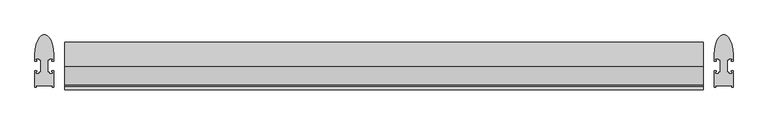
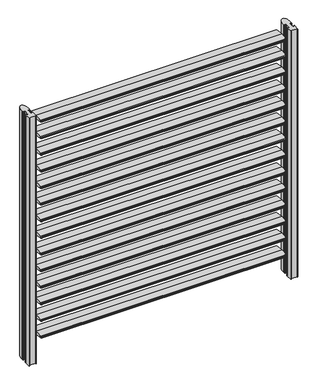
"""IFC4 building model written with IfcOpenShell, lengths in millimetres: proxy geometry, FSB_horizotal : FSB_horizotal_140."""

from ifc_helpers import new_model, si_unit, point, frame, frame_2d, origin, place, context, project, spatial, polyline, circle_curve, ellipse_curve, trimmed, segment, composite_curve, outline, extrude, source, transform, mapped, element, save
from ifc_brep_helpers import plane_surface, cylinder_surface, extruded_surface, advanced_brep


def generic_models_d16fba78(model_context):
    return source(origin(), model_context, "Body", "SolidModel", [
        extrude(outline(composite_curve([segment(polyline([(70.0601421, 201.7825961), (69.2391022, 199.417738), (60.340482, 202.0780318), (58.9296323, 198.0143321)]), True, "CONTINUOUS"), segment(trimmed(circle_curve(frame_2d((54.2066797, 199.6540636)), 4.9995), [point((58.9296323, 198.0143321))], [point((55.4159306, 194.8030109))], False, "CARTESIAN"), True, "CONTINUOUS"), segment(trimmed(circle_curve(frame_2d((-0.0013672, 417.1160411)), 229.1160411), [point((55.4159306, 194.8030109))], [point((0.0, 188.0))], False, "CARTESIAN"), True, "CONTINUOUS"), segment(trimmed(circle_curve(frame_2d((0.002269, 417.1160411)), 229.1160411), [point((0.0, 188.0))], [point((-70.0592401, 198.974928))], False, "CARTESIAN"), True, "CONTINUOUS"), segment(polyline([(-70.0592401, 198.974928), (-69.2382002, 201.3397861), (-60.33958, 198.6794923), (-58.9287302, 202.7431919)]), True, "CONTINUOUS"), segment(trimmed(circle_curve(frame_2d((-54.2057777, 201.1034604)), 4.9995), [point((-58.9287302, 202.7431919))], [point((-55.4150286, 205.9545131))], False, "CARTESIAN"), True, "CONTINUOUS"), segment(trimmed(circle_curve(frame_2d((0.0022692, -16.3585171)), 229.1160411), [point((-55.4150286, 205.9545131))], [point((0.0009021, 212.757524))], False, "CARTESIAN"), True, "CONTINUOUS"), segment(trimmed(circle_curve(frame_2d((-0.001367, -16.3585171)), 229.1160411), [point((0.0009021, 212.757524))], [point((70.0601421, 201.7825961))], False, "CARTESIAN"), True, "CONTINUOUS")], self_intersect=False)), frame((-939.5, 0.0, 0.0), z_axis=(1.0, 0.0, 0.0), x_axis=(0.0, 1.0, 0.0)), (0.0, 0.0, 1.0), 1879.0),
        extrude(outline(composite_curve([segment(polyline([(70.0601421, 335.7825961), (69.2391022, 333.417738), (60.340482, 336.0780318), (58.9296323, 332.0143321)]), True, "CONTINUOUS"), segment(trimmed(circle_curve(frame_2d((54.2066797, 333.6540636)), 4.9995), [point((58.9296323, 332.0143321))], [point((55.4159306, 328.8030109))], False, "CARTESIAN"), True, "CONTINUOUS"), segment(trimmed(circle_curve(frame_2d((-0.0013672, 551.1160411)), 229.1160411), [point((55.4159306, 328.8030109))], [point((0.0, 322.0))], False, "CARTESIAN"), True, "CONTINUOUS"), segment(trimmed(circle_curve(frame_2d((0.002269, 551.1160411)), 229.1160411), [point((0.0, 322.0))], [point((-70.0592401, 332.974928))], False, "CARTESIAN"), True, "CONTINUOUS"), segment(polyline([(-70.0592401, 332.974928), (-69.2382002, 335.3397861), (-60.33958, 332.6794923), (-58.9287302, 336.7431919)]), True, "CONTINUOUS"), segment(trimmed(circle_curve(frame_2d((-54.2057777, 335.1034604)), 4.9995), [point((-58.9287302, 336.7431919))], [point((-55.4150286, 339.9545131))], False, "CARTESIAN"), True, "CONTINUOUS"), segment(trimmed(circle_curve(frame_2d((0.0022692, 117.6414829)), 229.1160411), [point((-55.4150286, 339.9545131))], [point((0.0009021, 346.757524))], False, "CARTESIAN"), True, "CONTINUOUS"), segment(trimmed(circle_curve(frame_2d((-0.001367, 117.6414829)), 229.1160411), [point((0.0009021, 346.757524))], [point((70.0601421, 335.7825961))], False, "CARTESIAN"), True, "CONTINUOUS")], self_intersect=False)), frame((-939.5, 0.0, 0.0), z_axis=(1.0, 0.0, 0.0), x_axis=(0.0, 1.0, 0.0)), (0.0, 0.0, 1.0), 1879.0),
        extrude(outline(composite_curve([segment(polyline([(70.0601421, 469.7825961), (69.2391022, 467.417738), (60.340482, 470.0780318), (58.9296323, 466.0143321)]), True, "CONTINUOUS"), segment(trimmed(circle_curve(frame_2d((54.2066797, 467.6540636)), 4.9995), [point((58.9296323, 466.0143321))], [point((55.4159306, 462.8030109))], False, "CARTESIAN"), True, "CONTINUOUS"), segment(trimmed(circle_curve(frame_2d((-0.0013672, 685.1160411)), 229.1160411), [point((55.4159306, 462.8030109))], [point((0.0, 456.0))], False, "CARTESIAN"), True, "CONTINUOUS"), segment(trimmed(circle_curve(frame_2d((0.002269, 685.1160411)), 229.1160411), [point((0.0, 456.0))], [point((-70.0592401, 466.974928))], False, "CARTESIAN"), True, "CONTINUOUS"), segment(polyline([(-70.0592401, 466.974928), (-69.2382002, 469.3397861), (-60.33958, 466.6794923), (-58.9287302, 470.7431919)]), True, "CONTINUOUS"), segment(trimmed(circle_curve(frame_2d((-54.2057777, 469.1034604)), 4.9995), [point((-58.9287302, 470.7431919))], [point((-55.4150286, 473.9545131))], False, "CARTESIAN"), True, "CONTINUOUS"), segment(trimmed(circle_curve(frame_2d((0.0022692, 251.6414829)), 229.1160411), [point((-55.4150286, 473.9545131))], [point((0.0009021, 480.757524))], False, "CARTESIAN"), True, "CONTINUOUS"), segment(trimmed(circle_curve(frame_2d((-0.001367, 251.6414829)), 229.1160411), [point((0.0009021, 480.757524))], [point((70.0601421, 469.7825961))], False, "CARTESIAN"), True, "CONTINUOUS")], self_intersect=False)), frame((-939.5, 0.0, 0.0), z_axis=(1.0, 0.0, 0.0), x_axis=(0.0, 1.0, 0.0)), (0.0, 0.0, 1.0), 1879.0),
        extrude(outline(composite_curve([segment(polyline([(70.0601421, 603.7825961), (69.2391022, 601.417738), (60.340482, 604.0780318), (58.9296323, 600.0143321)]), True, "CONTINUOUS"), segment(trimmed(circle_curve(frame_2d((54.2066797, 601.6540636)), 4.9995), [point((58.9296323, 600.0143321))], [point((55.4159306, 596.8030109))], False, "CARTESIAN"), True, "CONTINUOUS"), segment(trimmed(circle_curve(frame_2d((-0.0013672, 819.1160411)), 229.1160411), [point((55.4159306, 596.8030109))], [point((0.0, 590.0))], False, "CARTESIAN"), True, "CONTINUOUS"), segment(trimmed(circle_curve(frame_2d((0.002269, 819.1160411)), 229.1160411), [point((0.0, 590.0))], [point((-70.0592401, 600.974928))], False, "CARTESIAN"), True, "CONTINUOUS"), segment(polyline([(-70.0592401, 600.974928), (-69.2382002, 603.3397861), (-60.33958, 600.6794923), (-58.9287302, 604.7431919)]), True, "CONTINUOUS"), segment(trimmed(circle_curve(frame_2d((-54.2057777, 603.1034604)), 4.9995), [point((-58.9287302, 604.7431919))], [point((-55.4150286, 607.9545131))], False, "CARTESIAN"), True, "CONTINUOUS"), segment(trimmed(circle_curve(frame_2d((0.0022692, 385.6414829)), 229.1160411), [point((-55.4150286, 607.9545131))], [point((0.0009021, 614.757524))], False, "CARTESIAN"), True, "CONTINUOUS"), segment(trimmed(circle_curve(frame_2d((-0.001367, 385.6414829)), 229.1160411), [point((0.0009021, 614.757524))], [point((70.0601421, 603.7825961))], False, "CARTESIAN"), True, "CONTINUOUS")], self_intersect=False)), frame((-939.5, 0.0, 0.0), z_axis=(1.0, 0.0, 0.0), x_axis=(0.0, 1.0, 0.0)), (0.0, 0.0, 1.0), 1879.0),
        extrude(outline(composite_curve([segment(polyline([(70.0601421, 737.7825961), (69.2391022, 735.417738), (60.340482, 738.0780318), (58.9296323, 734.0143321)]), True, "CONTINUOUS"), segment(trimmed(circle_curve(frame_2d((54.2066797, 735.6540636)), 4.9995), [point((58.9296323, 734.0143321))], [point((55.4159306, 730.8030109))], False, "CARTESIAN"), True, "CONTINUOUS"), segment(trimmed(circle_curve(frame_2d((-0.0013672, 953.1160411)), 229.1160411), [point((55.4159306, 730.8030109))], [point((0.0, 724.0))], False, "CARTESIAN"), True, "CONTINUOUS"), segment(trimmed(circle_curve(frame_2d((0.002269, 953.1160411)), 229.1160411), [point((0.0, 724.0))], [point((-70.0592401, 734.974928))], False, "CARTESIAN"), True, "CONTINUOUS"), segment(polyline([(-70.0592401, 734.974928), (-69.2382002, 737.3397861), (-60.33958, 734.6794923), (-58.9287302, 738.7431919)]), True, "CONTINUOUS"), segment(trimmed(circle_curve(frame_2d((-54.2057777, 737.1034604)), 4.9995), [point((-58.9287302, 738.7431919))], [point((-55.4150286, 741.9545131))], False, "CARTESIAN"), True, "CONTINUOUS"), segment(trimmed(circle_curve(frame_2d((0.0022692, 519.6414829)), 229.1160411), [point((-55.4150286, 741.9545131))], [point((0.0009021, 748.757524))], False, "CARTESIAN"), True, "CONTINUOUS"), segment(trimmed(circle_curve(frame_2d((-0.001367, 519.6414829)), 229.1160411), [point((0.0009021, 748.757524))], [point((70.0601421, 737.7825961))], False, "CARTESIAN"), True, "CONTINUOUS")], self_intersect=False)), frame((-939.5, 0.0, 0.0), z_axis=(1.0, 0.0, 0.0), x_axis=(0.0, 1.0, 0.0)), (0.0, 0.0, 1.0), 1879.0),
        extrude(outline(composite_curve([segment(polyline([(70.0601421, 871.7825961), (69.2391022, 869.417738), (60.340482, 872.0780318), (58.9296323, 868.0143321)]), True, "CONTINUOUS"), segment(trimmed(circle_curve(frame_2d((54.2066797, 869.6540636)), 4.9995), [point((58.9296323, 868.0143321))], [point((55.4159306, 864.8030109))], False, "CARTESIAN"), True, "CONTINUOUS"), segment(trimmed(circle_curve(frame_2d((-0.0013672, 1087.1160411)), 229.1160411), [point((55.4159306, 864.8030109))], [point((0.0, 858.0))], False, "CARTESIAN"), True, "CONTINUOUS"), segment(trimmed(circle_curve(frame_2d((0.002269, 1087.1160411)), 229.1160411), [point((0.0, 858.0))], [point((-70.0592401, 868.974928))], False, "CARTESIAN"), True, "CONTINUOUS"), segment(polyline([(-70.0592401, 868.974928), (-69.2382002, 871.3397861), (-60.33958, 868.6794923), (-58.9287302, 872.7431919)]), True, "CONTINUOUS"), segment(trimmed(circle_curve(frame_2d((-54.2057777, 871.1034604)), 4.9995), [point((-58.9287302, 872.7431919))], [point((-55.4150286, 875.9545131))], False, "CARTESIAN"), True, "CONTINUOUS"), segment(trimmed(circle_curve(frame_2d((0.0022692, 653.6414829)), 229.1160411), [point((-55.4150286, 875.9545131))], [point((0.0009021, 882.757524))], False, "CARTESIAN"), True, "CONTINUOUS"), segment(trimmed(circle_curve(frame_2d((-0.001367, 653.6414829)), 229.1160411), [point((0.0009021, 882.757524))], [point((70.0601421, 871.7825961))], False, "CARTESIAN"), True, "CONTINUOUS")], self_intersect=False)), frame((-939.5, 0.0, 0.0), z_axis=(1.0, 0.0, 0.0), x_axis=(0.0, 1.0, 0.0)), (0.0, 0.0, 1.0), 1879.0),
        extrude(outline(composite_curve([segment(polyline([(70.0601421, 1005.7825961), (69.2391022, 1003.417738), (60.340482, 1006.0780318), (58.9296323, 1002.0143321)]), True, "CONTINUOUS"), segment(trimmed(circle_curve(frame_2d((54.2066797, 1003.6540636)), 4.9995), [point((58.9296323, 1002.0143321))], [point((55.4159306, 998.8030109))], False, "CARTESIAN"), True, "CONTINUOUS"), segment(trimmed(circle_curve(frame_2d((-0.0013672, 1221.1160411)), 229.1160411), [point((55.4159306, 998.8030109))], [point((0.0, 992.0))], False, "CARTESIAN"), True, "CONTINUOUS"), segment(trimmed(circle_curve(frame_2d((0.002269, 1221.1160411)), 229.1160411), [point((0.0, 992.0))], [point((-70.0592401, 1002.974928))], False, "CARTESIAN"), True, "CONTINUOUS"), segment(polyline([(-70.0592401, 1002.974928), (-69.2382002, 1005.3397861), (-60.33958, 1002.6794923), (-58.9287302, 1006.7431919)]), True, "CONTINUOUS"), segment(trimmed(circle_curve(frame_2d((-54.2057777, 1005.1034604)), 4.9995), [point((-58.9287302, 1006.7431919))], [point((-55.4150286, 1009.9545131))], False, "CARTESIAN"), True, "CONTINUOUS"), segment(trimmed(circle_curve(frame_2d((0.0022692, 787.6414829)), 229.1160411), [point((-55.4150286, 1009.9545131))], [point((0.0009021, 1016.757524))], False, "CARTESIAN"), True, "CONTINUOUS"), segment(trimmed(circle_curve(frame_2d((-0.001367, 787.6414829)), 229.1160411), [point((0.0009021, 1016.757524))], [point((70.0601421, 1005.7825961))], False, "CARTESIAN"), True, "CONTINUOUS")], self_intersect=False)), frame((-939.5, 0.0, 0.0), z_axis=(1.0, 0.0, 0.0), x_axis=(0.0, 1.0, 0.0)), (0.0, 0.0, 1.0), 1879.0),
        extrude(outline(composite_curve([segment(polyline([(70.0601421, 1139.7825961), (69.2391022, 1137.417738), (60.340482, 1140.0780318), (58.9296323, 1136.0143321)]), True, "CONTINUOUS"), segment(trimmed(circle_curve(frame_2d((54.2066797, 1137.6540636)), 4.9995), [point((58.9296323, 1136.0143321))], [point((55.4159306, 1132.8030109))], False, "CARTESIAN"), True, "CONTINUOUS"), segment(trimmed(circle_curve(frame_2d((-0.0013672, 1355.1160411)), 229.1160411), [point((55.4159306, 1132.8030109))], [point((0.0, 1126.0))], False, "CARTESIAN"), True, "CONTINUOUS"), segment(trimmed(circle_curve(frame_2d((0.002269, 1355.1160411)), 229.1160411), [point((0.0, 1126.0))], [point((-70.0592401, 1136.974928))], False, "CARTESIAN"), True, "CONTINUOUS"), segment(polyline([(-70.0592401, 1136.974928), (-69.2382002, 1139.3397861), (-60.33958, 1136.6794923), (-58.9287302, 1140.7431919)]), True, "CONTINUOUS"), segment(trimmed(circle_curve(frame_2d((-54.2057777, 1139.1034604)), 4.9995), [point((-58.9287302, 1140.7431919))], [point((-55.4150286, 1143.9545131))], False, "CARTESIAN"), True, "CONTINUOUS"), segment(trimmed(circle_curve(frame_2d((0.0022692, 921.6414829)), 229.1160411), [point((-55.4150286, 1143.9545131))], [point((0.0009021, 1150.757524))], False, "CARTESIAN"), True, "CONTINUOUS"), segment(trimmed(circle_curve(frame_2d((-0.001367, 921.6414829)), 229.1160411), [point((0.0009021, 1150.757524))], [point((70.0601421, 1139.7825961))], False, "CARTESIAN"), True, "CONTINUOUS")], self_intersect=False)), frame((-939.5, 0.0, 0.0), z_axis=(1.0, 0.0, 0.0), x_axis=(0.0, 1.0, 0.0)), (0.0, 0.0, 1.0), 1879.0),
        extrude(outline(composite_curve([segment(polyline([(70.0601421, 1273.7825961), (69.2391022, 1271.417738), (60.340482, 1274.0780318), (58.9296323, 1270.0143321)]), True, "CONTINUOUS"), segment(trimmed(circle_curve(frame_2d((54.2066797, 1271.6540636)), 4.9995), [point((58.9296323, 1270.0143321))], [point((55.4159306, 1266.8030109))], False, "CARTESIAN"), True, "CONTINUOUS"), segment(trimmed(circle_curve(frame_2d((-0.0013672, 1489.1160411)), 229.1160411), [point((55.4159306, 1266.8030109))], [point((0.0, 1260.0))], False, "CARTESIAN"), True, "CONTINUOUS"), segment(trimmed(circle_curve(frame_2d((0.002269, 1489.1160411)), 229.1160411), [point((0.0, 1260.0))], [point((-70.0592401, 1270.974928))], False, "CARTESIAN"), True, "CONTINUOUS"), segment(polyline([(-70.0592401, 1270.974928), (-69.2382002, 1273.3397861), (-60.33958, 1270.6794923), (-58.9287302, 1274.7431919)]), True, "CONTINUOUS"), segment(trimmed(circle_curve(frame_2d((-54.2057777, 1273.1034604)), 4.9995), [point((-58.9287302, 1274.7431919))], [point((-55.4150286, 1277.9545131))], False, "CARTESIAN"), True, "CONTINUOUS"), segment(trimmed(circle_curve(frame_2d((0.0022692, 1055.6414829)), 229.1160411), [point((-55.4150286, 1277.9545131))], [point((0.0009021, 1284.757524))], False, "CARTESIAN"), True, "CONTINUOUS"), segment(trimmed(circle_curve(frame_2d((-0.001367, 1055.6414829)), 229.1160411), [point((0.0009021, 1284.757524))], [point((70.0601421, 1273.7825961))], False, "CARTESIAN"), True, "CONTINUOUS")], self_intersect=False)), frame((-939.5, 0.0, 0.0), z_axis=(1.0, 0.0, 0.0), x_axis=(0.0, 1.0, 0.0)), (0.0, 0.0, 1.0), 1879.0),
        extrude(outline(composite_curve([segment(polyline([(70.0601421, 1407.7825961), (69.2391022, 1405.417738), (60.340482, 1408.0780318), (58.9296323, 1404.0143321)]), True, "CONTINUOUS"), segment(trimmed(circle_curve(frame_2d((54.2066797, 1405.6540636)), 4.9995), [point((58.9296323, 1404.0143321))], [point((55.4159306, 1400.8030109))], False, "CARTESIAN"), True, "CONTINUOUS"), segment(trimmed(circle_curve(frame_2d((-0.0013672, 1623.1160411)), 229.1160411), [point((55.4159306, 1400.8030109))], [point((0.0, 1394.0))], False, "CARTESIAN"), True, "CONTINUOUS"), segment(trimmed(circle_curve(frame_2d((0.002269, 1623.1160411)), 229.1160411), [point((0.0, 1394.0))], [point((-70.0592401, 1404.974928))], False, "CARTESIAN"), True, "CONTINUOUS"), segment(polyline([(-70.0592401, 1404.974928), (-69.2382002, 1407.3397861), (-60.33958, 1404.6794923), (-58.9287302, 1408.7431919)]), True, "CONTINUOUS"), segment(trimmed(circle_curve(frame_2d((-54.2057777, 1407.1034604)), 4.9995), [point((-58.9287302, 1408.7431919))], [point((-55.4150286, 1411.9545131))], False, "CARTESIAN"), True, "CONTINUOUS"), segment(trimmed(circle_curve(frame_2d((0.0022692, 1189.6414829)), 229.1160411), [point((-55.4150286, 1411.9545131))], [point((0.0009021, 1418.757524))], False, "CARTESIAN"), True, "CONTINUOUS"), segment(trimmed(circle_curve(frame_2d((-0.001367, 1189.6414829)), 229.1160411), [point((0.0009021, 1418.757524))], [point((70.0601421, 1407.7825961))], False, "CARTESIAN"), True, "CONTINUOUS")], self_intersect=False)), frame((-939.5, 0.0, 0.0), z_axis=(1.0, 0.0, 0.0), x_axis=(0.0, 1.0, 0.0)), (0.0, 0.0, 1.0), 1879.0),
        extrude(outline(composite_curve([segment(polyline([(70.0601421, 1541.7825961), (69.2391022, 1539.417738), (60.340482, 1542.0780318), (58.9296323, 1538.0143321)]), True, "CONTINUOUS"), segment(trimmed(circle_curve(frame_2d((54.2066797, 1539.6540636)), 4.9995), [point((58.9296323, 1538.0143321))], [point((55.4159306, 1534.8030109))], False, "CARTESIAN"), True, "CONTINUOUS"), segment(trimmed(circle_curve(frame_2d((-0.0013672, 1757.1160411)), 229.1160411), [point((55.4159306, 1534.8030109))], [point((0.0, 1528.0))], False, "CARTESIAN"), True, "CONTINUOUS"), segment(trimmed(circle_curve(frame_2d((0.002269, 1757.1160411)), 229.1160411), [point((0.0, 1528.0))], [point((-70.0592401, 1538.974928))], False, "CARTESIAN"), True, "CONTINUOUS"), segment(polyline([(-70.0592401, 1538.974928), (-69.2382002, 1541.3397861), (-60.33958, 1538.6794923), (-58.9287302, 1542.7431919)]), True, "CONTINUOUS"), segment(trimmed(circle_curve(frame_2d((-54.2057777, 1541.1034604)), 4.9995), [point((-58.9287302, 1542.7431919))], [point((-55.4150286, 1545.9545131))], False, "CARTESIAN"), True, "CONTINUOUS"), segment(trimmed(circle_curve(frame_2d((0.0022692, 1323.6414829)), 229.1160411), [point((-55.4150286, 1545.9545131))], [point((0.0009021, 1552.757524))], False, "CARTESIAN"), True, "CONTINUOUS"), segment(trimmed(circle_curve(frame_2d((-0.001367, 1323.6414829)), 229.1160411), [point((0.0009021, 1552.757524))], [point((70.0601421, 1541.7825961))], False, "CARTESIAN"), True, "CONTINUOUS")], self_intersect=False)), frame((-939.5, 0.0, 0.0), z_axis=(1.0, 0.0, 0.0), x_axis=(0.0, 1.0, 0.0)), (0.0, 0.0, 1.0), 1879.0),
        extrude(outline(composite_curve([segment(polyline([(70.0601421, 1675.7825961), (69.2391022, 1673.417738), (60.340482, 1676.0780318), (58.9296323, 1672.0143321)]), True, "CONTINUOUS"), segment(trimmed(circle_curve(frame_2d((54.2066797, 1673.6540636)), 4.9995), [point((58.9296323, 1672.0143321))], [point((55.4159306, 1668.8030109))], False, "CARTESIAN"), True, "CONTINUOUS"), segment(trimmed(circle_curve(frame_2d((-0.0013672, 1891.1160411)), 229.1160411), [point((55.4159306, 1668.8030109))], [point((0.0, 1662.0))], False, "CARTESIAN"), True, "CONTINUOUS"), segment(trimmed(circle_curve(frame_2d((0.002269, 1891.1160411)), 229.1160411), [point((0.0, 1662.0))], [point((-70.0592401, 1672.974928))], False, "CARTESIAN"), True, "CONTINUOUS"), segment(polyline([(-70.0592401, 1672.974928), (-69.2382002, 1675.3397861), (-60.33958, 1672.6794923), (-58.9287302, 1676.7431919)]), True, "CONTINUOUS"), segment(trimmed(circle_curve(frame_2d((-54.2057777, 1675.1034604)), 4.9995), [point((-58.9287302, 1676.7431919))], [point((-55.4150286, 1679.9545131))], False, "CARTESIAN"), True, "CONTINUOUS"), segment(trimmed(circle_curve(frame_2d((0.0022692, 1457.6414829)), 229.1160411), [point((-55.4150286, 1679.9545131))], [point((0.0009021, 1686.757524))], False, "CARTESIAN"), True, "CONTINUOUS"), segment(trimmed(circle_curve(frame_2d((-0.001367, 1457.6414829)), 229.1160411), [point((0.0009021, 1686.757524))], [point((70.0601421, 1675.7825961))], False, "CARTESIAN"), True, "CONTINUOUS")], self_intersect=False)), frame((-939.5, 0.0, 0.0), z_axis=(1.0, 0.0, 0.0), x_axis=(0.0, 1.0, 0.0)), (0.0, 0.0, 1.0), 1879.0),
        extrude(outline(composite_curve([segment(polyline([(70.0601421, 1809.7825961), (69.2391022, 1807.417738), (60.340482, 1810.0780318), (58.9296323, 1806.0143321)]), True, "CONTINUOUS"), segment(trimmed(circle_curve(frame_2d((54.2066797, 1807.6540636)), 4.9995), [point((58.9296323, 1806.0143321))], [point((55.4159306, 1802.8030109))], False, "CARTESIAN"), True, "CONTINUOUS"), segment(trimmed(circle_curve(frame_2d((-0.0013672, 2025.1160411)), 229.1160411), [point((55.4159306, 1802.8030109))], [point((0.0, 1796.0))], False, "CARTESIAN"), True, "CONTINUOUS"), segment(trimmed(circle_curve(frame_2d((0.002269, 2025.1160411)), 229.1160411), [point((0.0, 1796.0))], [point((-70.0592401, 1806.974928))], False, "CARTESIAN"), True, "CONTINUOUS"), segment(polyline([(-70.0592401, 1806.974928), (-69.2382002, 1809.3397861), (-60.33958, 1806.6794923), (-58.9287302, 1810.7431919)]), True, "CONTINUOUS"), segment(trimmed(circle_curve(frame_2d((-54.2057777, 1809.1034604)), 4.9995), [point((-58.9287302, 1810.7431919))], [point((-55.4150286, 1813.9545131))], False, "CARTESIAN"), True, "CONTINUOUS"), segment(trimmed(circle_curve(frame_2d((0.0022692, 1591.6414829)), 229.1160411), [point((-55.4150286, 1813.9545131))], [point((0.0009021, 1820.757524))], False, "CARTESIAN"), True, "CONTINUOUS"), segment(trimmed(circle_curve(frame_2d((-0.001367, 1591.6414829)), 229.1160411), [point((0.0009021, 1820.757524))], [point((70.0601421, 1809.7825961))], False, "CARTESIAN"), True, "CONTINUOUS")], self_intersect=False)), frame((-939.5, 0.0, 0.0), z_axis=(1.0, 0.0, 0.0), x_axis=(0.0, 1.0, 0.0)), (0.0, 0.0, 1.0), 1879.0),
        extrude(outline(composite_curve([segment(polyline([(70.0601421, 1943.7825961), (69.2391022, 1941.417738), (60.340482, 1944.0780318), (58.9296323, 1940.0143321)]), True, "CONTINUOUS"), segment(trimmed(circle_curve(frame_2d((54.2066797, 1941.6540636)), 4.9995), [point((58.9296323, 1940.0143321))], [point((55.4159306, 1936.8030109))], False, "CARTESIAN"), True, "CONTINUOUS"), segment(trimmed(circle_curve(frame_2d((-0.0013672, 2159.1160411)), 229.1160411), [point((55.4159306, 1936.8030109))], [point((0.0, 1930.0))], False, "CARTESIAN"), True, "CONTINUOUS"), segment(trimmed(circle_curve(frame_2d((0.002269, 2159.1160411)), 229.1160411), [point((0.0, 1930.0))], [point((-70.0592401, 1940.974928))], False, "CARTESIAN"), True, "CONTINUOUS"), segment(polyline([(-70.0592401, 1940.974928), (-69.2382002, 1943.3397861), (-60.33958, 1940.6794923), (-58.9287302, 1944.7431919)]), True, "CONTINUOUS"), segment(trimmed(circle_curve(frame_2d((-54.2057777, 1943.1034604)), 4.9995), [point((-58.9287302, 1944.7431919))], [point((-55.4150286, 1947.9545131))], False, "CARTESIAN"), True, "CONTINUOUS"), segment(trimmed(circle_curve(frame_2d((0.0022692, 1725.6414829)), 229.1160411), [point((-55.4150286, 1947.9545131))], [point((0.0009021, 1954.757524))], False, "CARTESIAN"), True, "CONTINUOUS"), segment(trimmed(circle_curve(frame_2d((-0.001367, 1725.6414829)), 229.1160411), [point((0.0009021, 1954.757524))], [point((70.0601421, 1943.7825961))], False, "CARTESIAN"), True, "CONTINUOUS")], self_intersect=False)), frame((-939.5, 0.0, 0.0), z_axis=(1.0, 0.0, 0.0), x_axis=(0.0, 1.0, 0.0)), (0.0, 0.0, 1.0), 1879.0),
        advanced_brep(
        [(972.5005731, 35.515, 0.0), (1027.5000975, 35.515, 0.0), (1027.5000975, 14.55, 0.0), (1022.4, 14.55, 0.0), (1022.4, 16.55, 0.0), (1024.5000975, 16.55, 0.0), (1025.5000975, 17.55, 0.0), (1025.5000975, 22.175, 0.0), (1014.05, 22.175, 0.0), (1014.05, 18.5225, 0.0), (1011.0, 18.5225, 0.0), (1011.0, -18.5225, 0.0), (1014.05, -18.5225, 0.0), (1014.05, -22.175, 0.0), (1025.3000975, -22.175, 0.0), (1025.3000975, -17.55, 0.0), (1024.3000975, -16.55, 0.0), (1022.4, -16.55, 0.0), (1022.4, -14.55, 0.0), (1027.5000975, -14.55, 0.0), (1027.5000975, -63.0727525, 0.0), (1024.0000975, -63.0727525, 0.0), (1023.0000975, -62.0727525, 0.0), (1023.0000975, -60.5727525, 0.0), (1025.0000975, -60.5727525, 0.0), (1025.0000975, -57.5727525, 0.0), (974.9999025, -57.5727525, 0.0), (974.9999025, -60.5727525, 0.0), (976.9999025, -60.5727525, 0.0), (976.9999025, -62.0727525, 0.0), (975.9999025, -63.0727525, 0.0), (972.4999025, -63.0727525, 0.0), (972.4999025, -14.55, 0.0), (977.6, -14.55, 0.0), (977.6, -16.55, 0.0), (975.6999025, -16.55, 0.0), (974.6999025, -17.55, 0.0), (974.6999025, -22.175, 0.0), (985.95, -22.175, 0.0), (985.95, -18.5225, 0.0), (989.0, -18.5225, 0.0), (989.0, 18.5225, 0.0), (985.95, 18.5225, 0.0), (985.95, 22.175, 0.0), (974.4999025, 22.175, 0.0), (974.4999025, 17.55, 0.0), (975.4999025, 16.55, 0.0), (977.6, 16.55, 0.0), (977.6, 14.55, 0.0), (972.5005731, 14.55, 0.0), (972.5005731, 35.515, 2000.0), (972.5005731, 14.55, 2000.0), (977.6, 14.55, 2000.0), (977.6, 16.55, 2000.0), (975.4999025, 16.55, 2000.0), (974.4999025, 17.55, 2000.0), (974.4999025, 22.175, 2000.0), (985.95, 22.175, 2000.0), (985.95, 18.5225, 2000.0), (989.0, 18.5225, 2000.0), (989.0, -18.5225, 2000.0), (985.95, -18.5225, 2000.0), (985.95, -22.175, 2000.0), (974.6999025, -22.175, 2000.0), (974.6999025, -17.55, 2000.0), (975.6999025, -16.55, 2000.0), (977.6, -16.55, 2000.0), (977.6, -14.55, 2000.0), (972.4999025, -14.55, 2000.0), (972.4999025, -63.0727525, 2000.0), (975.9999025, -63.0727525, 2000.0), (976.9999025, -62.0727525, 2000.0), (976.9999025, -60.5727525, 2000.0), (974.9999025, -60.5727525, 2000.0), (974.9999025, -57.5727525, 2000.0), (1025.0000975, -57.5727525, 2000.0), (1025.0000975, -60.5727525, 2000.0), (1023.0000975, -60.5727525, 2000.0), (1023.0000975, -62.0727525, 2000.0), (1024.0000975, -63.0727525, 2000.0), (1027.5000975, -63.0727525, 2000.0), (1027.5000975, -14.55, 2000.0), (1022.4, -14.55, 2000.0), (1022.4, -16.55, 2000.0), (1024.3000975, -16.55, 2000.0), (1025.3000975, -17.55, 2000.0), (1025.3000975, -22.175, 2000.0), (1014.05, -22.175, 2000.0), (1014.05, -18.5225, 2000.0), (1011.0, -18.5225, 2000.0), (1011.0, 18.5225, 2000.0), (1014.05, 18.5225, 2000.0), (1014.05, 22.175, 2000.0), (1025.5000975, 22.175, 2000.0), (1025.5000975, 17.55, 2000.0), (1024.5000975, 16.55, 2000.0), (1022.4, 16.55, 2000.0), (1022.4, 14.55, 2000.0), (1027.5000975, 14.55, 2000.0), (1027.5000975, 35.515, 2000.0)],
        [
            (0, 1, ellipse_curve(frame((1000.0003353, 35.515, 0.0), z_axis=(0.0, 0.0, -1.0), x_axis=(0.0, 1.0, 0.0)), 56.4122475, 27.4997622)),
            (1, 2),
            (2, 3),
            (3, 4),
            (4, 5),
            (5, 6),
            (6, 7),
            (7, 8),
            (8, 9),
            (9, 10),
            (10, 11),
            (11, 12),
            (12, 13),
            (13, 14),
            (14, 15),
            (15, 16),
            (16, 17),
            (17, 18),
            (18, 19),
            (19, 20),
            (20, 21),
            (21, 22, circle_curve(frame((1024.0000975, -62.0727525, 0.0), z_axis=(0.0, 0.0, -1.0), x_axis=(-1.0, 0.0, 0.0)), 1.0)),
            (22, 23),
            (23, 24),
            (24, 25),
            (25, 26),
            (26, 27),
            (27, 28),
            (28, 29),
            (29, 30, circle_curve(frame((975.9999025, -62.0727525, 0.0), z_axis=(0.0, 0.0, -1.0), x_axis=(0.0, -1.0, 0.0)), 1.0)),
            (30, 31),
            (31, 32),
            (32, 33),
            (33, 34),
            (34, 35),
            (35, 36),
            (36, 37),
            (37, 38),
            (38, 39),
            (39, 40),
            (40, 41),
            (41, 42),
            (42, 43),
            (43, 44),
            (44, 45),
            (45, 46),
            (46, 47),
            (47, 48),
            (48, 49),
            (49, 0),
            (50, 51),
            (51, 52),
            (52, 53),
            (53, 54),
            (54, 55),
            (55, 56),
            (56, 57),
            (57, 58),
            (58, 59),
            (59, 60),
            (60, 61),
            (61, 62),
            (62, 63),
            (63, 64),
            (64, 65),
            (65, 66),
            (66, 67),
            (67, 68),
            (68, 69),
            (69, 70),
            (70, 71, circle_curve(frame((975.9999025, -62.0727525, 2000.0), z_axis=(0.0, 0.0, 1.0), x_axis=(0.0, -1.0, 0.0)), 1.0)),
            (71, 72),
            (72, 73),
            (73, 74),
            (74, 75),
            (75, 76),
            (76, 77),
            (77, 78),
            (78, 79, circle_curve(frame((1024.0000975, -62.0727525, 2000.0), z_axis=(0.0, 0.0, 1.0), x_axis=(-1.0, 0.0, 0.0)), 1.0)),
            (79, 80),
            (80, 81),
            (81, 82),
            (82, 83),
            (83, 84),
            (84, 85),
            (85, 86),
            (86, 87),
            (87, 88),
            (88, 89),
            (89, 90),
            (90, 91),
            (91, 92),
            (92, 93),
            (93, 94),
            (94, 95),
            (95, 96),
            (96, 97),
            (97, 98),
            (98, 99),
            (99, 50, ellipse_curve(frame((1000.0003353, 35.515, 2000.0), z_axis=(0.0, 0.0, 1.0), x_axis=(0.0, 1.0, 0.0)), 56.4122475, 27.4997622)),
            (0, 50),
            (99, 1),
            (98, 2),
            (97, 3),
            (96, 4),
            (95, 5),
            (94, 6),
            (93, 7),
            (92, 8),
            (91, 9),
            (90, 10),
            (89, 11),
            (88, 12),
            (87, 13),
            (86, 14),
            (85, 15),
            (84, 16),
            (83, 17),
            (82, 18),
            (81, 19),
            (80, 20),
            (79, 21),
            (78, 22),
            (77, 23),
            (76, 24),
            (75, 25),
            (74, 26),
            (73, 27),
            (72, 28),
            (71, 29),
            (70, 30),
            (69, 31),
            (68, 32),
            (67, 33),
            (66, 34),
            (65, 35),
            (64, 36),
            (63, 37),
            (62, 38),
            (61, 39),
            (60, 40),
            (59, 41),
            (58, 42),
            (57, 43),
            (56, 44),
            (55, 45),
            (54, 46),
            (53, 47),
            (52, 48),
            (51, 49),
        ],
        [
            plane_surface(frame((1000.0, 0.0, 0.0), z_axis=(0.0, 0.0, -1.0), x_axis=(0.0, -1.0, 0.0))),
            plane_surface(frame((1000.0, 0.0, 2000.0), z_axis=(0.0, 0.0, 1.0), x_axis=(0.0, -1.0, 0.0))),
            extruded_surface(trimmed(ellipse_curve(frame((1000.0003353, 35.515, 2000.0), z_axis=(0.0, 0.0, -1.0), x_axis=(0.0, 1.0, 0.0)), 56.4122475, 27.4997622), [point((972.5005731, 35.515, 2000.0))], [point((1027.5000975, 35.515, 2000.0))], True, "CARTESIAN"), (0.0, 0.0, -2000.0), 2000.0),
            plane_surface(frame((1027.5000975, 35.515, 0.0), z_axis=(1.0, 0.0, 0.0), x_axis=(0.0, 0.0, 1.0))),
            plane_surface(frame((1027.5000975, 14.55, 0.0), z_axis=(0.0, -1.0, 0.0), x_axis=(0.0, 0.0, 1.0))),
            plane_surface(frame((1022.4, 14.55, 0.0), z_axis=(-1.0, 0.0, 0.0), x_axis=(0.0, 0.0, 1.0))),
            plane_surface(frame((1022.4, 16.55, 0.0), z_axis=(0.0, 1.0, 0.0), x_axis=(0.0, 0.0, 1.0))),
            plane_surface(frame((1024.5000975, 16.55, 0.0), z_axis=(-0.707106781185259, 0.707106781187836, 0.0), x_axis=(0.0, 0.0, 1.0))),
            plane_surface(frame((1025.5000975, 17.55, 0.0), z_axis=(-1.0, 0.0, 0.0), x_axis=(0.0, 0.0, 1.0))),
            plane_surface(frame((1025.5000975, 22.175, 0.0), z_axis=(0.0, -1.0, 0.0), x_axis=(0.0, 0.0, 1.0))),
            plane_surface(frame((1014.05, 22.175, 0.0), z_axis=(1.0, 0.0, 0.0), x_axis=(0.0, 0.0, 1.0))),
            plane_surface(frame((1014.05, 18.5225, 0.0), z_axis=(0.0, -1.0, 0.0), x_axis=(0.0, 0.0, 1.0))),
            plane_surface(frame((1011.0, 18.5225, 0.0), z_axis=(1.0, 0.0, 0.0), x_axis=(0.0, 0.0, 1.0))),
            plane_surface(frame((1011.0, -18.5225, 0.0), z_axis=(0.0, 1.0, 0.0), x_axis=(0.0, 0.0, 1.0))),
            plane_surface(frame((1014.05, -18.5225, 0.0), z_axis=(1.0, 0.0, 0.0), x_axis=(0.0, 0.0, 1.0))),
            plane_surface(frame((1014.05, -22.175, 0.0), z_axis=(0.0, 1.0, 0.0), x_axis=(0.0, 0.0, 1.0))),
            plane_surface(frame((1025.3000975, -22.175, 0.0), z_axis=(-1.0, 0.0, 0.0), x_axis=(0.0, 0.0, 1.0))),
            plane_surface(frame((1025.3000975, -17.55, 0.0), z_axis=(-0.7071067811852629, -0.7071067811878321, 0.0), x_axis=(0.0, 0.0, 1.0))),
            plane_surface(frame((1024.3000975, -16.55, 0.0), z_axis=(0.0, -1.0, 0.0), x_axis=(0.0, 0.0, 1.0))),
            plane_surface(frame((1022.4, -16.55, 0.0), z_axis=(-1.0, 0.0, 0.0), x_axis=(0.0, 0.0, 1.0))),
            plane_surface(frame((1022.4, -14.55, 0.0), z_axis=(0.0, 1.0, 0.0), x_axis=(0.0, 0.0, 1.0))),
            plane_surface(frame((1027.5000975, -14.55, 0.0), z_axis=(1.0, 0.0, 0.0), x_axis=(0.0, 0.0, 1.0))),
            plane_surface(frame((1027.5000975, -63.0727525, 0.0), z_axis=(0.0, -1.0, 0.0), x_axis=(0.0, 0.0, 1.0))),
            cylinder_surface(frame((1024.0000975, -62.0727525, 0.0), z_axis=(0.0, 0.0, -1.0), x_axis=(-1.0, 0.0, 0.0)), 1.0),
            plane_surface(frame((1023.0000975, -62.0727525, 0.0), z_axis=(-1.0, 0.0, 0.0), x_axis=(0.0, 0.0, 1.0))),
            plane_surface(frame((1023.0000975, -60.5727525, 0.0), z_axis=(0.0, 1.0, 0.0), x_axis=(0.0, 0.0, 1.0))),
            plane_surface(frame((1025.0000975, -60.5727525, 0.0), z_axis=(-1.0, 0.0, 0.0), x_axis=(0.0, 0.0, 1.0))),
            plane_surface(frame((1025.0000975, -57.5727525, 0.0), z_axis=(0.0, -1.0, 0.0), x_axis=(0.0, 0.0, 1.0))),
            plane_surface(frame((974.9999025, -57.5727525, 0.0), z_axis=(1.0, 0.0, 0.0), x_axis=(0.0, 0.0, 1.0))),
            plane_surface(frame((974.9999025, -60.5727525, 0.0), z_axis=(0.0, 1.0, 0.0), x_axis=(0.0, 0.0, 1.0))),
            plane_surface(frame((976.9999025, -60.5727525, 0.0), z_axis=(1.0, 0.0, 0.0), x_axis=(0.0, 0.0, 1.0))),
            cylinder_surface(frame((975.9999025, -62.0727525, 0.0), z_axis=(0.0, 0.0, -1.0), x_axis=(0.0, -1.0, 0.0)), 1.0),
            plane_surface(frame((975.9999025, -63.0727525, 0.0), z_axis=(0.0, -1.0, 0.0), x_axis=(0.0, 0.0, 1.0))),
            plane_surface(frame((972.4999025, -63.0727525, 0.0), z_axis=(-1.0, 0.0, 0.0), x_axis=(0.0, 0.0, 1.0))),
            plane_surface(frame((972.4999025, -14.55, 0.0), z_axis=(0.0, 1.0, 0.0), x_axis=(0.0, 0.0, 1.0))),
            plane_surface(frame((977.6, -14.55, 0.0), z_axis=(1.0, 0.0, 0.0), x_axis=(0.0, 0.0, 1.0))),
            plane_surface(frame((977.6, -16.55, 0.0), z_axis=(0.0, -1.0, 0.0), x_axis=(0.0, 0.0, 1.0))),
            plane_surface(frame((975.6999025, -16.55, 0.0), z_axis=(0.7071067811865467, -0.7071067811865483, 0.0), x_axis=(0.0, 0.0, 1.0))),
            plane_surface(frame((974.6999025, -17.55, 0.0), z_axis=(1.0, 0.0, 0.0), x_axis=(0.0, 0.0, 1.0))),
            plane_surface(frame((974.6999025, -22.175, 0.0), z_axis=(0.0, 1.0, 0.0), x_axis=(0.0, 0.0, 1.0))),
            plane_surface(frame((985.95, -22.175, 0.0), z_axis=(-1.0, 0.0, 0.0), x_axis=(0.0, 0.0, 1.0))),
            plane_surface(frame((985.95, -18.5225, 0.0), z_axis=(0.0, 1.0, 0.0), x_axis=(0.0, 0.0, 1.0))),
            plane_surface(frame((989.0, -18.5225, 0.0), z_axis=(-1.0, 0.0, 0.0), x_axis=(0.0, 0.0, 1.0))),
            plane_surface(frame((989.0, 18.5225, 0.0), z_axis=(0.0, -1.0, 0.0), x_axis=(0.0, 0.0, 1.0))),
            plane_surface(frame((985.95, 18.5225, 0.0), z_axis=(-1.0, 0.0, 0.0), x_axis=(0.0, 0.0, 1.0))),
            plane_surface(frame((985.95, 22.175, 0.0), z_axis=(0.0, -1.0, 0.0), x_axis=(0.0, 0.0, 1.0))),
            plane_surface(frame((974.4999025, 22.175, 0.0), z_axis=(1.0, 0.0, 0.0), x_axis=(0.0, 0.0, 1.0))),
            plane_surface(frame((974.4999025, 17.55, 0.0), z_axis=(0.7071067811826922, 0.7071067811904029, 0.0), x_axis=(0.0, 0.0, 1.0))),
            plane_surface(frame((975.4999025, 16.55, 0.0), z_axis=(0.0, 1.0, 0.0), x_axis=(0.0, 0.0, 1.0))),
            plane_surface(frame((977.6, 16.55, 0.0), z_axis=(1.0, 0.0, 0.0), x_axis=(0.0, 0.0, 1.0))),
            plane_surface(frame((977.6, 14.55, 0.0), z_axis=(0.0, -1.0, 0.0), x_axis=(0.0, 0.0, 1.0))),
            plane_surface(frame((972.5005731, 14.55, 0.0), z_axis=(-1.0, 0.0, 0.0), x_axis=(0.0, 0.0, 1.0))),
        ],
        [
            (0, [[1, 2, 3, 4, 5, 6, 7, 8, 9, 10, 11, 12, 13, 14, 15, 16, 17, 18, 19, 20, 21, 22, 23, 24, 25, 26, 27, 28, 29, 30, 31, 32, 33, 34, 35, 36, 37, 38, 39, 40, 41, 42, 43, 44, 45, 46, 47, 48, 49, 50]]),
            (1, [[51, 52, 53, 54, 55, 56, 57, 58, 59, 60, 61, 62, 63, 64, 65, 66, 67, 68, 69, 70, 71, 72, 73, 74, 75, 76, 77, 78, 79, 80, 81, 82, 83, 84, 85, 86, 87, 88, 89, 90, 91, 92, 93, 94, 95, 96, 97, 98, 99, 100]]),
            (2, [[-1, 101, -100, 102]]),
            (3, [[-2, -102, -99, 103]]),
            (4, [[-3, -103, -98, 104]]),
            (5, [[-4, -104, -97, 105]]),
            (6, [[-5, -105, -96, 106]]),
            (7, [[-6, -106, -95, 107]]),
            (8, [[-7, -107, -94, 108]]),
            (9, [[-8, -108, -93, 109]]),
            (10, [[-9, -109, -92, 110]]),
            (11, [[-10, -110, -91, 111]]),
            (12, [[-11, -111, -90, 112]]),
            (13, [[-12, -112, -89, 113]]),
            (14, [[-13, -113, -88, 114]]),
            (15, [[-14, -114, -87, 115]]),
            (16, [[-15, -115, -86, 116]]),
            (17, [[-16, -116, -85, 117]]),
            (18, [[-17, -117, -84, 118]]),
            (19, [[-18, -118, -83, 119]]),
            (20, [[-19, -119, -82, 120]]),
            (21, [[-20, -120, -81, 121]]),
            (22, [[-21, -121, -80, 122]]),
            (23, [[-22, -122, -79, 123]]),
            (24, [[-23, -123, -78, 124]]),
            (25, [[-24, -124, -77, 125]]),
            (26, [[-25, -125, -76, 126]]),
            (27, [[-26, -126, -75, 127]]),
            (28, [[-27, -127, -74, 128]]),
            (29, [[-28, -128, -73, 129]]),
            (30, [[-29, -129, -72, 130]]),
            (31, [[-30, -130, -71, 131]]),
            (32, [[-31, -131, -70, 132]]),
            (33, [[-32, -132, -69, 133]]),
            (34, [[-33, -133, -68, 134]]),
            (35, [[-34, -134, -67, 135]]),
            (36, [[-35, -135, -66, 136]]),
            (37, [[-36, -136, -65, 137]]),
            (38, [[-37, -137, -64, 138]]),
            (39, [[-38, -138, -63, 139]]),
            (40, [[-39, -139, -62, 140]]),
            (41, [[-40, -140, -61, 141]]),
            (42, [[-41, -141, -60, 142]]),
            (43, [[-42, -142, -59, 143]]),
            (44, [[-43, -143, -58, 144]]),
            (45, [[-44, -144, -57, 145]]),
            (46, [[-45, -145, -56, 146]]),
            (47, [[-46, -146, -55, 147]]),
            (48, [[-47, -147, -54, 148]]),
            (49, [[-48, -148, -53, 149]]),
            (50, [[-49, -149, -52, 150]]),
            (51, [[-50, -150, -51, -101]]),
        ],
    ),
        advanced_brep(
        [(-1027.4994269, 35.515, 0.0), (-972.4999025, 35.515, 0.0), (-972.4999025, 14.55, 0.0), (-977.6, 14.55, 0.0), (-977.6, 16.55, 0.0), (-975.4999025, 16.55, 0.0), (-974.4999025, 17.55, 0.0), (-974.4999025, 22.175, 0.0), (-985.95, 22.175, 0.0), (-985.95, 18.5225, 0.0), (-989.0, 18.5225, 0.0), (-989.0, -18.5225, 0.0), (-985.95, -18.5225, 0.0), (-985.95, -22.175, 0.0), (-974.6999025, -22.175, 0.0), (-974.6999025, -17.55, 0.0), (-975.6999025, -16.55, 0.0), (-977.6, -16.55, 0.0), (-977.6, -14.55, 0.0), (-972.4999025, -14.55, 0.0), (-972.4999025, -63.0727525, 0.0), (-975.9999025, -63.0727525, 0.0), (-976.9999025, -62.0727525, 0.0), (-976.9999025, -60.5727525, 0.0), (-974.9999025, -60.5727525, 0.0), (-974.9999025, -57.5727525, 0.0), (-1025.0000975, -57.5727525, 0.0), (-1025.0000975, -60.5727525, 0.0), (-1023.0000975, -60.5727525, 0.0), (-1023.0000975, -62.0727525, 0.0), (-1024.0000975, -63.0727525, 0.0), (-1027.5000975, -63.0727525, 0.0), (-1027.5000975, -14.55, 0.0), (-1022.4, -14.55, 0.0), (-1022.4, -16.55, 0.0), (-1024.3000975, -16.55, 0.0), (-1025.3000975, -17.55, 0.0), (-1025.3000975, -22.175, 0.0), (-1014.05, -22.175, 0.0), (-1014.05, -18.5225, 0.0), (-1011.0, -18.5225, 0.0), (-1011.0, 18.5225, 0.0), (-1014.05, 18.5225, 0.0), (-1014.05, 22.175, 0.0), (-1025.5000975, 22.175, 0.0), (-1025.5000975, 17.55, 0.0), (-1024.5000975, 16.55, 0.0), (-1022.4, 16.55, 0.0), (-1022.4, 14.55, 0.0), (-1027.4994269, 14.55, 0.0), (-1027.4994269, 35.515, 2000.0), (-1027.4994269, 14.55, 2000.0), (-1022.4, 14.55, 2000.0), (-1022.4, 16.55, 2000.0), (-1024.5000975, 16.55, 2000.0), (-1025.5000975, 17.55, 2000.0), (-1025.5000975, 22.175, 2000.0), (-1014.05, 22.175, 2000.0), (-1014.05, 18.5225, 2000.0), (-1011.0, 18.5225, 2000.0), (-1011.0, -18.5225, 2000.0), (-1014.05, -18.5225, 2000.0), (-1014.05, -22.175, 2000.0), (-1025.3000975, -22.175, 2000.0), (-1025.3000975, -17.55, 2000.0), (-1024.3000975, -16.55, 2000.0), (-1022.4, -16.55, 2000.0), (-1022.4, -14.55, 2000.0), (-1027.5000975, -14.55, 2000.0), (-1027.5000975, -63.0727525, 2000.0), (-1024.0000975, -63.0727525, 2000.0), (-1023.0000975, -62.0727525, 2000.0), (-1023.0000975, -60.5727525, 2000.0), (-1025.0000975, -60.5727525, 2000.0), (-1025.0000975, -57.5727525, 2000.0), (-974.9999025, -57.5727525, 2000.0), (-974.9999025, -60.5727525, 2000.0), (-976.9999025, -60.5727525, 2000.0), (-976.9999025, -62.0727525, 2000.0), (-975.9999025, -63.0727525, 2000.0), (-972.4999025, -63.0727525, 2000.0), (-972.4999025, -14.55, 2000.0), (-977.6, -14.55, 2000.0), (-977.6, -16.55, 2000.0), (-975.6999025, -16.55, 2000.0), (-974.6999025, -17.55, 2000.0), (-974.6999025, -22.175, 2000.0), (-985.95, -22.175, 2000.0), (-985.95, -18.5225, 2000.0), (-989.0, -18.5225, 2000.0), (-989.0, 18.5225, 2000.0), (-985.95, 18.5225, 2000.0), (-985.95, 22.175, 2000.0), (-974.4999025, 22.175, 2000.0), (-974.4999025, 17.55, 2000.0), (-975.4999025, 16.55, 2000.0), (-977.6, 16.55, 2000.0), (-977.6, 14.55, 2000.0), (-972.4999025, 14.55, 2000.0), (-972.4999025, 35.515, 2000.0)],
        [
            (0, 1, ellipse_curve(frame((-999.9996647, 35.515, 0.0), z_axis=(0.0, 0.0, -1.0), x_axis=(0.0, 1.0, 0.0)), 56.4122475, 27.4997622)),
            (1, 2),
            (2, 3),
            (3, 4),
            (4, 5),
            (5, 6),
            (6, 7),
            (7, 8),
            (8, 9),
            (9, 10),
            (10, 11),
            (11, 12),
            (12, 13),
            (13, 14),
            (14, 15),
            (15, 16),
            (16, 17),
            (17, 18),
            (18, 19),
            (19, 20),
            (20, 21),
            (21, 22, circle_curve(frame((-975.9999025, -62.0727525, 0.0), z_axis=(0.0, 0.0, -1.0), x_axis=(-1.0, 0.0, 0.0)), 1.0)),
            (22, 23),
            (23, 24),
            (24, 25),
            (25, 26),
            (26, 27),
            (27, 28),
            (28, 29),
            (29, 30, circle_curve(frame((-1024.0000975, -62.0727525, 0.0), z_axis=(0.0, 0.0, -1.0), x_axis=(0.0, -1.0, 0.0)), 1.0)),
            (30, 31),
            (31, 32),
            (32, 33),
            (33, 34),
            (34, 35),
            (35, 36),
            (36, 37),
            (37, 38),
            (38, 39),
            (39, 40),
            (40, 41),
            (41, 42),
            (42, 43),
            (43, 44),
            (44, 45),
            (45, 46),
            (46, 47),
            (47, 48),
            (48, 49),
            (49, 0),
            (50, 51),
            (51, 52),
            (52, 53),
            (53, 54),
            (54, 55),
            (55, 56),
            (56, 57),
            (57, 58),
            (58, 59),
            (59, 60),
            (60, 61),
            (61, 62),
            (62, 63),
            (63, 64),
            (64, 65),
            (65, 66),
            (66, 67),
            (67, 68),
            (68, 69),
            (69, 70),
            (70, 71, circle_curve(frame((-1024.0000975, -62.0727525, 2000.0), z_axis=(0.0, 0.0, 1.0), x_axis=(0.0, -1.0, 0.0)), 1.0)),
            (71, 72),
            (72, 73),
            (73, 74),
            (74, 75),
            (75, 76),
            (76, 77),
            (77, 78),
            (78, 79, circle_curve(frame((-975.9999025, -62.0727525, 2000.0), z_axis=(0.0, 0.0, 1.0), x_axis=(-1.0, 0.0, 0.0)), 1.0)),
            (79, 80),
            (80, 81),
            (81, 82),
            (82, 83),
            (83, 84),
            (84, 85),
            (85, 86),
            (86, 87),
            (87, 88),
            (88, 89),
            (89, 90),
            (90, 91),
            (91, 92),
            (92, 93),
            (93, 94),
            (94, 95),
            (95, 96),
            (96, 97),
            (97, 98),
            (98, 99),
            (99, 50, ellipse_curve(frame((-999.9996647, 35.515, 2000.0), z_axis=(0.0, 0.0, 1.0), x_axis=(0.0, 1.0, 0.0)), 56.4122475, 27.4997622)),
            (0, 50),
            (99, 1),
            (98, 2),
            (97, 3),
            (96, 4),
            (95, 5),
            (94, 6),
            (93, 7),
            (92, 8),
            (91, 9),
            (90, 10),
            (89, 11),
            (88, 12),
            (87, 13),
            (86, 14),
            (85, 15),
            (84, 16),
            (83, 17),
            (82, 18),
            (81, 19),
            (80, 20),
            (79, 21),
            (78, 22),
            (77, 23),
            (76, 24),
            (75, 25),
            (74, 26),
            (73, 27),
            (72, 28),
            (71, 29),
            (70, 30),
            (69, 31),
            (68, 32),
            (67, 33),
            (66, 34),
            (65, 35),
            (64, 36),
            (63, 37),
            (62, 38),
            (61, 39),
            (60, 40),
            (59, 41),
            (58, 42),
            (57, 43),
            (56, 44),
            (55, 45),
            (54, 46),
            (53, 47),
            (52, 48),
            (51, 49),
        ],
        [
            plane_surface(frame((-1000.0, 0.0, 0.0), z_axis=(0.0, 0.0, -1.0), x_axis=(0.0, -1.0, 0.0))),
            plane_surface(frame((-1000.0, 0.0, 2000.0), z_axis=(0.0, 0.0, 1.0), x_axis=(0.0, -1.0, 0.0))),
            extruded_surface(trimmed(ellipse_curve(frame((-999.9996647, 35.515, 2000.0), z_axis=(0.0, 0.0, -1.0), x_axis=(0.0, 1.0, 0.0)), 56.4122475, 27.4997622), [point((-1027.4994269, 35.515, 2000.0))], [point((-972.4999025, 35.515, 2000.0))], True, "CARTESIAN"), (0.0, 0.0, -2000.0), 2000.0),
            plane_surface(frame((-972.4999025, 35.515, 0.0), z_axis=(1.0, 0.0, 0.0), x_axis=(0.0, 0.0, 1.0))),
            plane_surface(frame((-972.4999025, 14.55, 0.0), z_axis=(0.0, -1.0, 0.0), x_axis=(0.0, 0.0, 1.0))),
            plane_surface(frame((-977.6, 14.55, 0.0), z_axis=(-1.0, 0.0, 0.0), x_axis=(0.0, 0.0, 1.0))),
            plane_surface(frame((-977.6, 16.55, 0.0), z_axis=(0.0, 1.0, 0.0), x_axis=(0.0, 0.0, 1.0))),
            plane_surface(frame((-975.4999025, 16.55, 0.0), z_axis=(-0.707106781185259, 0.707106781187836, 0.0), x_axis=(0.0, 0.0, 1.0))),
            plane_surface(frame((-974.4999025, 17.55, 0.0), z_axis=(-1.0, 0.0, 0.0), x_axis=(0.0, 0.0, 1.0))),
            plane_surface(frame((-974.4999025, 22.175, 0.0), z_axis=(0.0, -1.0, 0.0), x_axis=(0.0, 0.0, 1.0))),
            plane_surface(frame((-985.95, 22.175, 0.0), z_axis=(1.0, 0.0, 0.0), x_axis=(0.0, 0.0, 1.0))),
            plane_surface(frame((-985.95, 18.5225, 0.0), z_axis=(0.0, -1.0, 0.0), x_axis=(0.0, 0.0, 1.0))),
            plane_surface(frame((-989.0, 18.5225, 0.0), z_axis=(1.0, 0.0, 0.0), x_axis=(0.0, 0.0, 1.0))),
            plane_surface(frame((-989.0, -18.5225, 0.0), z_axis=(0.0, 1.0, 0.0), x_axis=(0.0, 0.0, 1.0))),
            plane_surface(frame((-985.95, -18.5225, 0.0), z_axis=(1.0, 0.0, 0.0), x_axis=(0.0, 0.0, 1.0))),
            plane_surface(frame((-985.95, -22.175, 0.0), z_axis=(0.0, 1.0, 0.0), x_axis=(0.0, 0.0, 1.0))),
            plane_surface(frame((-974.6999025, -22.175, 0.0), z_axis=(-1.0, 0.0, 0.0), x_axis=(0.0, 0.0, 1.0))),
            plane_surface(frame((-974.6999025, -17.55, 0.0), z_axis=(-0.7071067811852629, -0.7071067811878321, 0.0), x_axis=(0.0, 0.0, 1.0))),
            plane_surface(frame((-975.6999025, -16.55, 0.0), z_axis=(0.0, -1.0, 0.0), x_axis=(0.0, 0.0, 1.0))),
            plane_surface(frame((-977.6, -16.55, 0.0), z_axis=(-1.0, 0.0, 0.0), x_axis=(0.0, 0.0, 1.0))),
            plane_surface(frame((-977.6, -14.55, 0.0), z_axis=(0.0, 1.0, 0.0), x_axis=(0.0, 0.0, 1.0))),
            plane_surface(frame((-972.4999025, -14.55, 0.0), z_axis=(1.0, 0.0, 0.0), x_axis=(0.0, 0.0, 1.0))),
            plane_surface(frame((-972.4999025, -63.0727525, 0.0), z_axis=(0.0, -1.0, 0.0), x_axis=(0.0, 0.0, 1.0))),
            cylinder_surface(frame((-975.9999025, -62.0727525, 0.0), z_axis=(0.0, 0.0, -1.0), x_axis=(-1.0, 0.0, 0.0)), 1.0),
            plane_surface(frame((-976.9999025, -62.0727525, 0.0), z_axis=(-1.0, 0.0, 0.0), x_axis=(0.0, 0.0, 1.0))),
            plane_surface(frame((-976.9999025, -60.5727525, 0.0), z_axis=(0.0, 1.0, 0.0), x_axis=(0.0, 0.0, 1.0))),
            plane_surface(frame((-974.9999025, -60.5727525, 0.0), z_axis=(-1.0, 0.0, 0.0), x_axis=(0.0, 0.0, 1.0))),
            plane_surface(frame((-974.9999025, -57.5727525, 0.0), z_axis=(0.0, -1.0, 0.0), x_axis=(0.0, 0.0, 1.0))),
            plane_surface(frame((-1025.0000975, -57.5727525, 0.0), z_axis=(1.0, 0.0, 0.0), x_axis=(0.0, 0.0, 1.0))),
            plane_surface(frame((-1025.0000975, -60.5727525, 0.0), z_axis=(0.0, 1.0, 0.0), x_axis=(0.0, 0.0, 1.0))),
            plane_surface(frame((-1023.0000975, -60.5727525, 0.0), z_axis=(1.0, 0.0, 0.0), x_axis=(0.0, 0.0, 1.0))),
            cylinder_surface(frame((-1024.0000975, -62.0727525, 0.0), z_axis=(0.0, 0.0, -1.0), x_axis=(0.0, -1.0, 0.0)), 1.0),
            plane_surface(frame((-1024.0000975, -63.0727525, 0.0), z_axis=(0.0, -1.0, 0.0), x_axis=(0.0, 0.0, 1.0))),
            plane_surface(frame((-1027.5000975, -63.0727525, 0.0), z_axis=(-1.0, 0.0, 0.0), x_axis=(0.0, 0.0, 1.0))),
            plane_surface(frame((-1027.5000975, -14.55, 0.0), z_axis=(0.0, 1.0, 0.0), x_axis=(0.0, 0.0, 1.0))),
            plane_surface(frame((-1022.4, -14.55, 0.0), z_axis=(1.0, 0.0, 0.0), x_axis=(0.0, 0.0, 1.0))),
            plane_surface(frame((-1022.4, -16.55, 0.0), z_axis=(0.0, -1.0, 0.0), x_axis=(0.0, 0.0, 1.0))),
            plane_surface(frame((-1024.3000975, -16.55, 0.0), z_axis=(0.7071067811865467, -0.7071067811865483, 0.0), x_axis=(0.0, 0.0, 1.0))),
            plane_surface(frame((-1025.3000975, -17.55, 0.0), z_axis=(1.0, 0.0, 0.0), x_axis=(0.0, 0.0, 1.0))),
            plane_surface(frame((-1025.3000975, -22.175, 0.0), z_axis=(0.0, 1.0, 0.0), x_axis=(0.0, 0.0, 1.0))),
            plane_surface(frame((-1014.05, -22.175, 0.0), z_axis=(-1.0, 0.0, 0.0), x_axis=(0.0, 0.0, 1.0))),
            plane_surface(frame((-1014.05, -18.5225, 0.0), z_axis=(0.0, 1.0, 0.0), x_axis=(0.0, 0.0, 1.0))),
            plane_surface(frame((-1011.0, -18.5225, 0.0), z_axis=(-1.0, 0.0, 0.0), x_axis=(0.0, 0.0, 1.0))),
            plane_surface(frame((-1011.0, 18.5225, 0.0), z_axis=(0.0, -1.0, 0.0), x_axis=(0.0, 0.0, 1.0))),
            plane_surface(frame((-1014.05, 18.5225, 0.0), z_axis=(-1.0, 0.0, 0.0), x_axis=(0.0, 0.0, 1.0))),
            plane_surface(frame((-1014.05, 22.175, 0.0), z_axis=(0.0, -1.0, 0.0), x_axis=(0.0, 0.0, 1.0))),
            plane_surface(frame((-1025.5000975, 22.175, 0.0), z_axis=(1.0, 0.0, 0.0), x_axis=(0.0, 0.0, 1.0))),
            plane_surface(frame((-1025.5000975, 17.55, 0.0), z_axis=(0.7071067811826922, 0.7071067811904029, 0.0), x_axis=(0.0, 0.0, 1.0))),
            plane_surface(frame((-1024.5000975, 16.55, 0.0), z_axis=(0.0, 1.0, 0.0), x_axis=(0.0, 0.0, 1.0))),
            plane_surface(frame((-1022.4, 16.55, 0.0), z_axis=(1.0, 0.0, 0.0), x_axis=(0.0, 0.0, 1.0))),
            plane_surface(frame((-1022.4, 14.55, 0.0), z_axis=(0.0, -1.0, 0.0), x_axis=(0.0, 0.0, 1.0))),
            plane_surface(frame((-1027.4994269, 14.55, 0.0), z_axis=(-1.0, 0.0, 0.0), x_axis=(0.0, 0.0, 1.0))),
        ],
        [
            (0, [[1, 2, 3, 4, 5, 6, 7, 8, 9, 10, 11, 12, 13, 14, 15, 16, 17, 18, 19, 20, 21, 22, 23, 24, 25, 26, 27, 28, 29, 30, 31, 32, 33, 34, 35, 36, 37, 38, 39, 40, 41, 42, 43, 44, 45, 46, 47, 48, 49, 50]]),
            (1, [[51, 52, 53, 54, 55, 56, 57, 58, 59, 60, 61, 62, 63, 64, 65, 66, 67, 68, 69, 70, 71, 72, 73, 74, 75, 76, 77, 78, 79, 80, 81, 82, 83, 84, 85, 86, 87, 88, 89, 90, 91, 92, 93, 94, 95, 96, 97, 98, 99, 100]]),
            (2, [[-1, 101, -100, 102]]),
            (3, [[-2, -102, -99, 103]]),
            (4, [[-3, -103, -98, 104]]),
            (5, [[-4, -104, -97, 105]]),
            (6, [[-5, -105, -96, 106]]),
            (7, [[-6, -106, -95, 107]]),
            (8, [[-7, -107, -94, 108]]),
            (9, [[-8, -108, -93, 109]]),
            (10, [[-9, -109, -92, 110]]),
            (11, [[-10, -110, -91, 111]]),
            (12, [[-11, -111, -90, 112]]),
            (13, [[-12, -112, -89, 113]]),
            (14, [[-13, -113, -88, 114]]),
            (15, [[-14, -114, -87, 115]]),
            (16, [[-15, -115, -86, 116]]),
            (17, [[-16, -116, -85, 117]]),
            (18, [[-17, -117, -84, 118]]),
            (19, [[-18, -118, -83, 119]]),
            (20, [[-19, -119, -82, 120]]),
            (21, [[-20, -120, -81, 121]]),
            (22, [[-21, -121, -80, 122]]),
            (23, [[-22, -122, -79, 123]]),
            (24, [[-23, -123, -78, 124]]),
            (25, [[-24, -124, -77, 125]]),
            (26, [[-25, -125, -76, 126]]),
            (27, [[-26, -126, -75, 127]]),
            (28, [[-27, -127, -74, 128]]),
            (29, [[-28, -128, -73, 129]]),
            (30, [[-29, -129, -72, 130]]),
            (31, [[-30, -130, -71, 131]]),
            (32, [[-31, -131, -70, 132]]),
            (33, [[-32, -132, -69, 133]]),
            (34, [[-33, -133, -68, 134]]),
            (35, [[-34, -134, -67, 135]]),
            (36, [[-35, -135, -66, 136]]),
            (37, [[-36, -136, -65, 137]]),
            (38, [[-37, -137, -64, 138]]),
            (39, [[-38, -138, -63, 139]]),
            (40, [[-39, -139, -62, 140]]),
            (41, [[-40, -140, -61, 141]]),
            (42, [[-41, -141, -60, 142]]),
            (43, [[-42, -142, -59, 143]]),
            (44, [[-43, -143, -58, 144]]),
            (45, [[-44, -144, -57, 145]]),
            (46, [[-45, -145, -56, 146]]),
            (47, [[-46, -146, -55, 147]]),
            (48, [[-47, -147, -54, 148]]),
            (49, [[-48, -148, -53, 149]]),
            (50, [[-49, -149, -52, 150]]),
            (51, [[-50, -150, -51, -101]]),
        ],
    ),
    ])


if __name__ == "__main__":
    model = new_model("IFC4")
    model_context = context("Model", 3, world=origin())
    ifc_project = project(units=[si_unit("LENGTHUNIT", "METRE", prefix="MILLI")], contexts=[model_context])
    site = spatial("IfcSite", under=ifc_project)
    building = spatial("IfcBuilding", under=site)
    placement = place(None, origin())
    generic_models_shape = generic_models_d16fba78(model_context)
    element("IfcBuildingElementProxy", 1, Name="FSB_horizotal : FSB_horizotal_140", ObjectType="FSB_horizotal : FSB_horizotal_140", at=placement, inside=building, context=model_context, shape_type="MappedRepresentation", body=[
        mapped(generic_models_shape, transform((0.0, 0.0, 0.0), x_axis=(1.0, 0.0, 0.0), y_axis=(0.0, 1.0, 0.0), z_axis=(0.0, 0.0, 1.0))),
    ])
    save(model, "model.ifc")
